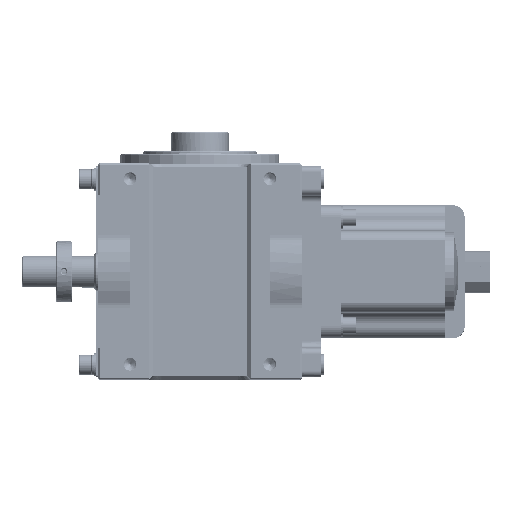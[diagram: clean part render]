
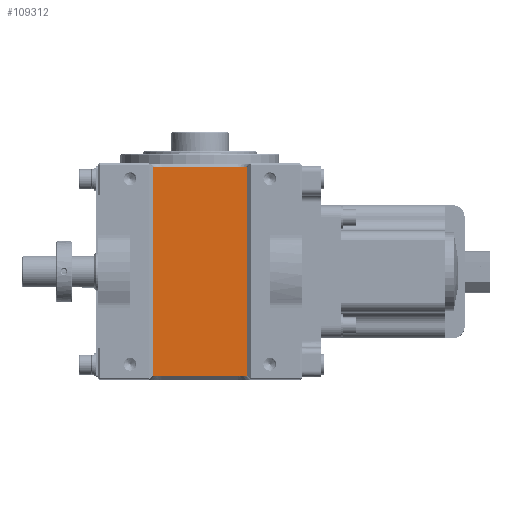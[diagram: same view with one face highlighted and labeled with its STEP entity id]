
A CAD part, top view. The second image highlights one B-rep face of the part: STEP entity #109312.
In plain terms, the highlighted planar face has unit normal (0, 0, 1).
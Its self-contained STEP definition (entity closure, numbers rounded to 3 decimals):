
#2121 = EDGE_CURVE ( 'NONE', #202108, #128570, #54516, .T. ) ;
#7599 = CARTESIAN_POINT ( 'NONE',  ( -43., 282., 77. ) ) ;
#15834 = ORIENTED_EDGE ( 'NONE', *, *, #93799, .T. ) ;
#16546 = VECTOR ( 'NONE', #178123, 1000. ) ;
#17215 = VECTOR ( 'NONE', #157168, 1000. ) ;
#17761 = PLANE ( 'NONE',  #125900 ) ;
#33729 = DIRECTION ( 'NONE',  ( 1., 0., 0. ) ) ;
#38655 = CARTESIAN_POINT ( 'NONE',  ( -43., 118., 77. ) ) ;
#51887 = CARTESIAN_POINT ( 'NONE',  ( -80., 118., 77. ) ) ;
#54516 = LINE ( 'NONE', #127300, #17215 ) ;
#56737 = CARTESIAN_POINT ( 'NONE',  ( -117., 118., 77. ) ) ;
#64881 = VECTOR ( 'NONE', #146924, 1000. ) ;
#80978 = CARTESIAN_POINT ( 'NONE',  ( -80., 115., 77. ) ) ;
#84097 = LINE ( 'NONE', #114381, #126271 ) ;
#89817 = EDGE_LOOP ( 'NONE', ( #102909, #109590, #15834, #104927 ) ) ;
#93799 = EDGE_CURVE ( 'NONE', #137338, #202108, #107116, .T. ) ;
#96190 = VERTEX_POINT ( 'NONE', #109913 ) ;
#102909 = ORIENTED_EDGE ( 'NONE', *, *, #122161, .T. ) ;
#104927 = ORIENTED_EDGE ( 'NONE', *, *, #2121, .T. ) ;
#107116 = LINE ( 'NONE', #51887, #64881 ) ;
#109312 = ADVANCED_FACE ( 'NONE', ( #191905 ), #17761, .T. ) ;
#109590 = ORIENTED_EDGE ( 'NONE', *, *, #148862, .T. ) ;
#109913 = CARTESIAN_POINT ( 'NONE',  ( -117., 282., 77. ) ) ;
#114381 = CARTESIAN_POINT ( 'NONE',  ( -117., 115., 77. ) ) ;
#122161 = EDGE_CURVE ( 'NONE', #128570, #96190, #185470, .T. ) ;
#125900 = AXIS2_PLACEMENT_3D ( 'NONE', #80978, #128795, #33729 ) ;
#126271 = VECTOR ( 'NONE', #179560, 1000. ) ;
#127300 = CARTESIAN_POINT ( 'NONE',  ( -43., 285., 77. ) ) ;
#128570 = VERTEX_POINT ( 'NONE', #7599 ) ;
#128795 = DIRECTION ( 'NONE',  ( 0., 0., 1. ) ) ;
#137338 = VERTEX_POINT ( 'NONE', #56737 ) ;
#146924 = DIRECTION ( 'NONE',  ( 1., 0., 0. ) ) ;
#148862 = EDGE_CURVE ( 'NONE', #96190, #137338, #84097, .T. ) ;
#157168 = DIRECTION ( 'NONE',  ( 0., 1., 0. ) ) ;
#162156 = CARTESIAN_POINT ( 'NONE',  ( -80., 282., 77. ) ) ;
#178123 = DIRECTION ( 'NONE',  ( -1., 0., 0. ) ) ;
#179560 = DIRECTION ( 'NONE',  ( 0., -1., 0. ) ) ;
#185470 = LINE ( 'NONE', #162156, #16546 ) ;
#191905 = FACE_OUTER_BOUND ( 'NONE', #89817, .T. ) ;
#202108 = VERTEX_POINT ( 'NONE', #38655 ) ;
